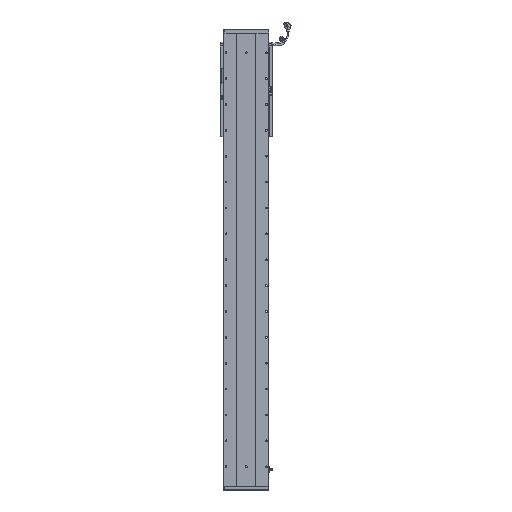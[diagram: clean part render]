
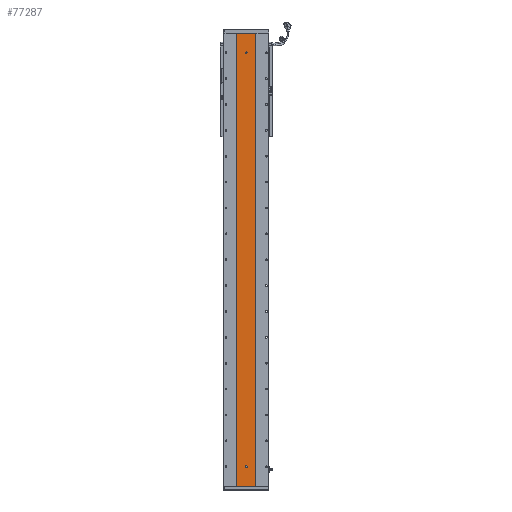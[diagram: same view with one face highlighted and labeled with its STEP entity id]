
A CAD part, front view. The second image highlights one B-rep face of the part: STEP entity #77287.
In plain terms, the highlighted planar face has unit normal (0, -1, 0).
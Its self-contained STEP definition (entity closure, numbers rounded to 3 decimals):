
#814 = CARTESIAN_POINT ( 'NONE',  ( 3244.748, 1415.701, 1752. ) ) ;
#964 = PLANE ( 'NONE',  #53874 ) ;
#1040 = DIRECTION ( 'NONE',  ( 1., 0., 0. ) ) ;
#1837 = CIRCLE ( 'NONE', #23693, 3. ) ;
#2293 = CIRCLE ( 'NONE', #43137, 3. ) ;
#4467 = ORIENTED_EDGE ( 'NONE', *, *, #91829, .F. ) ;
#4516 = EDGE_CURVE ( 'NONE', #46756, #24052, #103388, .T. ) ;
#6243 = VERTEX_POINT ( 'NONE', #91106 ) ;
#8868 = ORIENTED_EDGE ( 'NONE', *, *, #96924, .F. ) ;
#10273 = CARTESIAN_POINT ( 'NONE',  ( 3244.748, 1415.701, 0. ) ) ;
#10696 = CARTESIAN_POINT ( 'NONE',  ( 3316.311, 1415.701, 0. ) ) ;
#10832 = CARTESIAN_POINT ( 'NONE',  ( 3283.529, 1415.701, 74.5 ) ) ;
#11247 = ORIENTED_EDGE ( 'NONE', *, *, #37116, .F. ) ;
#12309 = VERTEX_POINT ( 'NONE', #67718 ) ;
#14198 = CARTESIAN_POINT ( 'NONE',  ( 3280.529, 1415.701, 1676. ) ) ;
#14999 = VECTOR ( 'NONE', #25896, 1000. ) ;
#15412 = VERTEX_POINT ( 'NONE', #51762 ) ;
#18368 = DIRECTION ( 'NONE',  ( 0., 0., 1. ) ) ;
#18461 = FACE_BOUND ( 'NONE', #35354, .T. ) ;
#18921 = VERTEX_POINT ( 'NONE', #10832 ) ;
#23693 = AXIS2_PLACEMENT_3D ( 'NONE', #74182, #99721, #82327 ) ;
#24034 = DIRECTION ( 'NONE',  ( 1., 0., 0. ) ) ;
#24052 = VERTEX_POINT ( 'NONE', #69762 ) ;
#24144 = CARTESIAN_POINT ( 'NONE',  ( 3280.529, 1415.701, 74.5 ) ) ;
#25896 = DIRECTION ( 'NONE',  ( 0., 0., 1. ) ) ;
#26202 = EDGE_CURVE ( 'NONE', #24052, #28929, #66352, .T. ) ;
#26638 = CARTESIAN_POINT ( 'NONE',  ( 3280.529, 1415.701, 1676. ) ) ;
#27280 = DIRECTION ( 'NONE',  ( 0., 1., 0. ) ) ;
#28929 = VERTEX_POINT ( 'NONE', #10696 ) ;
#31624 = DIRECTION ( 'NONE',  ( 0., 0., -1. ) ) ;
#32771 = VERTEX_POINT ( 'NONE', #71791 ) ;
#33941 = EDGE_CURVE ( 'NONE', #18921, #57425, #45499, .T. ) ;
#34102 = DIRECTION ( 'NONE',  ( 0., -1., 0. ) ) ;
#34210 = EDGE_CURVE ( 'NONE', #46756, #12309, #42729, .T. ) ;
#35354 = EDGE_LOOP ( 'NONE', ( #11247, #76665, #4467, #92458, #8868 ) ) ;
#36671 = DIRECTION ( 'NONE',  ( 0., 0., -1. ) ) ;
#37116 = EDGE_CURVE ( 'NONE', #32771, #15412, #101598, .T. ) ;
#37389 = CARTESIAN_POINT ( 'NONE',  ( 3277.529, 1415.701, 77.5 ) ) ;
#38225 = EDGE_CURVE ( 'NONE', #66805, #109483, #98768, .T. ) ;
#38290 = FACE_OUTER_BOUND ( 'NONE', #99687, .T. ) ;
#42729 = LINE ( 'NONE', #66526, #104974 ) ;
#42932 = CARTESIAN_POINT ( 'NONE',  ( 3283.529, 1415.701, 77.5 ) ) ;
#43137 = AXIS2_PLACEMENT_3D ( 'NONE', #24144, #100766, #74873 ) ;
#45499 = LINE ( 'NONE', #76632, #14999 ) ;
#46606 = CARTESIAN_POINT ( 'NONE',  ( 3280.529, 1415.701, 1673. ) ) ;
#46756 = VERTEX_POINT ( 'NONE', #814 ) ;
#48172 = EDGE_LOOP ( 'NONE', ( #97451, #74697 ) ) ;
#48619 = LINE ( 'NONE', #37389, #56597 ) ;
#50408 = DIRECTION ( 'NONE',  ( 0., 0., -1. ) ) ;
#51762 = CARTESIAN_POINT ( 'NONE',  ( 3280.529, 1415.701, 71.5 ) ) ;
#51953 = ORIENTED_EDGE ( 'NONE', *, *, #34210, .T. ) ;
#52741 = AXIS2_PLACEMENT_3D ( 'NONE', #84805, #34102, #50408 ) ;
#52920 = DIRECTION ( 'NONE',  ( 0., -1., 0. ) ) ;
#53874 = AXIS2_PLACEMENT_3D ( 'NONE', #103509, #27280, #18368 ) ;
#56597 = VECTOR ( 'NONE', #36671, 1000. ) ;
#57425 = VERTEX_POINT ( 'NONE', #42932 ) ;
#58376 = VECTOR ( 'NONE', #24034, 1000. ) ;
#60203 = CIRCLE ( 'NONE', #96003, 3. ) ;
#60897 = FACE_BOUND ( 'NONE', #48172, .T. ) ;
#61244 = DIRECTION ( 'NONE',  ( 0., 0., -1. ) ) ;
#62023 = EDGE_CURVE ( 'NONE', #6243, #32771, #48619, .T. ) ;
#63864 = LINE ( 'NONE', #10273, #81041 ) ;
#66352 = LINE ( 'NONE', #87469, #67749 ) ;
#66421 = DIRECTION ( 'NONE',  ( 0., -1., 0. ) ) ;
#66526 = CARTESIAN_POINT ( 'NONE',  ( 3244.748, 1415.701, 1752. ) ) ;
#66805 = VERTEX_POINT ( 'NONE', #46606 ) ;
#67025 = AXIS2_PLACEMENT_3D ( 'NONE', #26638, #52920, #86222 ) ;
#67718 = CARTESIAN_POINT ( 'NONE',  ( 3244.748, 1415.701, 0. ) ) ;
#67749 = VECTOR ( 'NONE', #61244, 1000. ) ;
#69598 = EDGE_CURVE ( 'NONE', #12309, #28929, #63864, .T. ) ;
#69762 = CARTESIAN_POINT ( 'NONE',  ( 3316.311, 1415.701, 1752. ) ) ;
#71432 = ORIENTED_EDGE ( 'NONE', *, *, #26202, .F. ) ;
#71791 = CARTESIAN_POINT ( 'NONE',  ( 3277.529, 1415.701, 74.5 ) ) ;
#74182 = CARTESIAN_POINT ( 'NONE',  ( 3280.529, 1415.701, 77.5 ) ) ;
#74697 = ORIENTED_EDGE ( 'NONE', *, *, #91850, .F. ) ;
#74873 = DIRECTION ( 'NONE',  ( 0., 0., -1. ) ) ;
#76249 = CARTESIAN_POINT ( 'NONE',  ( 3244.748, 1415.701, 1752. ) ) ;
#76632 = CARTESIAN_POINT ( 'NONE',  ( 3283.529, 1415.701, 77.5 ) ) ;
#76665 = ORIENTED_EDGE ( 'NONE', *, *, #62023, .F. ) ;
#77287 = ADVANCED_FACE ( 'NONE', ( #18461, #60897, #38290 ), #964, .F. ) ;
#81041 = VECTOR ( 'NONE', #1040, 1000. ) ;
#82327 = DIRECTION ( 'NONE',  ( 0., 0., -1. ) ) ;
#84805 = CARTESIAN_POINT ( 'NONE',  ( 3280.529, 1415.701, 74.5 ) ) ;
#86222 = DIRECTION ( 'NONE',  ( 0., 0., -1. ) ) ;
#87469 = CARTESIAN_POINT ( 'NONE',  ( 3316.311, 1415.701, 1752. ) ) ;
#88944 = CARTESIAN_POINT ( 'NONE',  ( 3280.529, 1415.701, 1679. ) ) ;
#91106 = CARTESIAN_POINT ( 'NONE',  ( 3277.529, 1415.701, 77.5 ) ) ;
#91829 = EDGE_CURVE ( 'NONE', #57425, #6243, #1837, .T. ) ;
#91850 = EDGE_CURVE ( 'NONE', #109483, #66805, #60203, .T. ) ;
#92458 = ORIENTED_EDGE ( 'NONE', *, *, #33941, .F. ) ;
#92762 = DIRECTION ( 'NONE',  ( 0., 0., -1. ) ) ;
#96003 = AXIS2_PLACEMENT_3D ( 'NONE', #14198, #66421, #31624 ) ;
#96924 = EDGE_CURVE ( 'NONE', #15412, #18921, #2293, .T. ) ;
#96933 = ORIENTED_EDGE ( 'NONE', *, *, #69598, .T. ) ;
#97451 = ORIENTED_EDGE ( 'NONE', *, *, #38225, .F. ) ;
#98768 = CIRCLE ( 'NONE', #67025, 3. ) ;
#99687 = EDGE_LOOP ( 'NONE', ( #96933, #71432, #99904, #51953 ) ) ;
#99721 = DIRECTION ( 'NONE',  ( 0., -1., 0. ) ) ;
#99904 = ORIENTED_EDGE ( 'NONE', *, *, #4516, .F. ) ;
#100766 = DIRECTION ( 'NONE',  ( 0., -1., 0. ) ) ;
#101598 = CIRCLE ( 'NONE', #52741, 3. ) ;
#103388 = LINE ( 'NONE', #76249, #58376 ) ;
#103509 = CARTESIAN_POINT ( 'NONE',  ( 3244.748, 1415.701, 1752. ) ) ;
#104974 = VECTOR ( 'NONE', #92762, 1000. ) ;
#109483 = VERTEX_POINT ( 'NONE', #88944 ) ;
